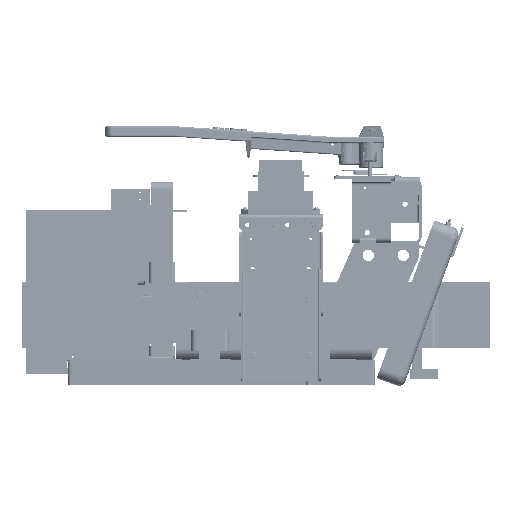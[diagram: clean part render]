
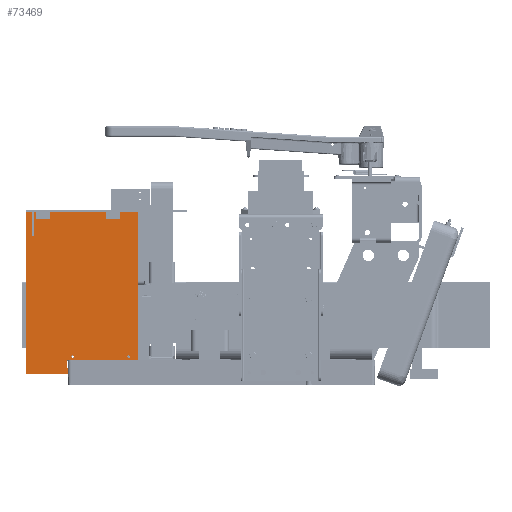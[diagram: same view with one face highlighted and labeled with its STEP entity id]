
A CAD part, left-side view. The second image highlights one B-rep face of the part: STEP entity #73469.
In plain terms, the highlighted planar face has unit normal (-1, 0, 0) as drawn and (0, 0, -1) by its records, which use the part's own axes.
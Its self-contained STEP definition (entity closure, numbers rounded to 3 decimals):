
#3943=FACE_BOUND('',#15733,.T.);
#3944=FACE_BOUND('',#15734,.T.);
#3945=FACE_BOUND('',#15735,.T.);
#3946=FACE_BOUND('',#15736,.T.);
#6109=CIRCLE('',#81004,0.097);
#6111=CIRCLE('',#81007,0.097);
#6113=CIRCLE('',#81010,0.097);
#6115=CIRCLE('',#81013,0.097);
#11074=FACE_OUTER_BOUND('',#15732,.T.);
#15732=EDGE_LOOP('',(#59282,#59283,#59284,#59285,#59286,#59287,#59288,#59289,
#59290,#59291,#59292,#59293));
#15733=EDGE_LOOP('',(#59294));
#15734=EDGE_LOOP('',(#59295));
#15735=EDGE_LOOP('',(#59296));
#15736=EDGE_LOOP('',(#59297));
#21599=LINE('',#123913,#27850);
#21603=LINE('',#123921,#27854);
#21606=LINE('',#123927,#27857);
#21609=LINE('',#123933,#27860);
#21612=LINE('',#123939,#27863);
#21615=LINE('',#123945,#27866);
#21618=LINE('',#123951,#27869);
#21621=LINE('',#123957,#27872);
#21624=LINE('',#123963,#27875);
#21627=LINE('',#123969,#27878);
#21630=LINE('',#123975,#27881);
#21633=LINE('',#123980,#27884);
#27850=VECTOR('',#95857,0.394);
#27854=VECTOR('',#95863,0.394);
#27857=VECTOR('',#95868,0.394);
#27860=VECTOR('',#95873,0.394);
#27863=VECTOR('',#95878,0.394);
#27866=VECTOR('',#95883,0.394);
#27869=VECTOR('',#95888,0.394);
#27872=VECTOR('',#95893,0.394);
#27875=VECTOR('',#95898,0.394);
#27878=VECTOR('',#95903,0.394);
#27881=VECTOR('',#95908,0.394);
#27884=VECTOR('',#95913,0.394);
#34376=VERTEX_POINT('',#123887);
#34378=VERTEX_POINT('',#123893);
#34380=VERTEX_POINT('',#123899);
#34382=VERTEX_POINT('',#123905);
#34384=VERTEX_POINT('',#123911);
#34385=VERTEX_POINT('',#123912);
#34388=VERTEX_POINT('',#123920);
#34390=VERTEX_POINT('',#123926);
#34392=VERTEX_POINT('',#123932);
#34394=VERTEX_POINT('',#123938);
#34396=VERTEX_POINT('',#123944);
#34398=VERTEX_POINT('',#123950);
#34400=VERTEX_POINT('',#123956);
#34402=VERTEX_POINT('',#123962);
#34404=VERTEX_POINT('',#123968);
#34406=VERTEX_POINT('',#123974);
#43086=EDGE_CURVE('',#34376,#34376,#6109,.T.);
#43089=EDGE_CURVE('',#34378,#34378,#6111,.T.);
#43092=EDGE_CURVE('',#34380,#34380,#6113,.T.);
#43095=EDGE_CURVE('',#34382,#34382,#6115,.T.);
#43098=EDGE_CURVE('',#34384,#34385,#21599,.T.);
#43102=EDGE_CURVE('',#34388,#34384,#21603,.T.);
#43105=EDGE_CURVE('',#34390,#34388,#21606,.T.);
#43108=EDGE_CURVE('',#34392,#34390,#21609,.T.);
#43111=EDGE_CURVE('',#34394,#34392,#21612,.T.);
#43114=EDGE_CURVE('',#34396,#34394,#21615,.T.);
#43117=EDGE_CURVE('',#34398,#34396,#21618,.T.);
#43120=EDGE_CURVE('',#34400,#34398,#21621,.T.);
#43123=EDGE_CURVE('',#34402,#34400,#21624,.T.);
#43126=EDGE_CURVE('',#34404,#34402,#21627,.T.);
#43129=EDGE_CURVE('',#34406,#34404,#21630,.T.);
#43132=EDGE_CURVE('',#34385,#34406,#21633,.T.);
#59282=ORIENTED_EDGE('',*,*,#43132,.F.);
#59283=ORIENTED_EDGE('',*,*,#43098,.F.);
#59284=ORIENTED_EDGE('',*,*,#43102,.F.);
#59285=ORIENTED_EDGE('',*,*,#43105,.F.);
#59286=ORIENTED_EDGE('',*,*,#43108,.F.);
#59287=ORIENTED_EDGE('',*,*,#43111,.F.);
#59288=ORIENTED_EDGE('',*,*,#43114,.F.);
#59289=ORIENTED_EDGE('',*,*,#43117,.F.);
#59290=ORIENTED_EDGE('',*,*,#43120,.F.);
#59291=ORIENTED_EDGE('',*,*,#43123,.F.);
#59292=ORIENTED_EDGE('',*,*,#43126,.F.);
#59293=ORIENTED_EDGE('',*,*,#43129,.F.);
#59294=ORIENTED_EDGE('',*,*,#43086,.T.);
#59295=ORIENTED_EDGE('',*,*,#43089,.T.);
#59296=ORIENTED_EDGE('',*,*,#43092,.T.);
#59297=ORIENTED_EDGE('',*,*,#43095,.T.);
#70247=PLANE('',#81028);
#73469=ADVANCED_FACE('',(#11074,#3943,#3944,#3945,#3946),#70247,.F.);
#81004=AXIS2_PLACEMENT_3D('',#123888,#95829,#95830);
#81007=AXIS2_PLACEMENT_3D('',#123894,#95836,#95837);
#81010=AXIS2_PLACEMENT_3D('',#123900,#95843,#95844);
#81013=AXIS2_PLACEMENT_3D('',#123906,#95850,#95851);
#81028=AXIS2_PLACEMENT_3D('',#123983,#95917,#95918);
#95829=DIRECTION('center_axis',(0.,0.,1.));
#95830=DIRECTION('ref_axis',(-1.,0.,0.));
#95836=DIRECTION('center_axis',(0.,0.,1.));
#95837=DIRECTION('ref_axis',(-1.,0.,0.));
#95843=DIRECTION('center_axis',(0.,0.,1.));
#95844=DIRECTION('ref_axis',(-1.,0.,0.));
#95850=DIRECTION('center_axis',(0.,0.,1.));
#95851=DIRECTION('ref_axis',(-1.,0.,0.));
#95857=DIRECTION('',(1.,0.,0.));
#95863=DIRECTION('',(0.,1.,0.));
#95868=DIRECTION('',(1.,0.,0.));
#95873=DIRECTION('',(0.,-1.,0.));
#95878=DIRECTION('',(-1.,0.,0.));
#95883=DIRECTION('',(0.,-1.,0.));
#95888=DIRECTION('',(1.,0.,0.));
#95893=DIRECTION('',(0.,-1.,0.));
#95898=DIRECTION('',(-1.,0.,0.));
#95903=DIRECTION('',(0.,1.,0.));
#95908=DIRECTION('',(1.,0.,0.));
#95913=DIRECTION('',(0.,-1.,0.));
#95917=DIRECTION('center_axis',(0.,0.,1.));
#95918=DIRECTION('ref_axis',(1.,0.,0.));
#123887=CARTESIAN_POINT('',(0.347,2.,0.));
#123888=CARTESIAN_POINT('Origin',(0.25,2.,0.));
#123893=CARTESIAN_POINT('',(0.347,7.,0.));
#123894=CARTESIAN_POINT('Origin',(0.25,7.,0.));
#123899=CARTESIAN_POINT('',(10.472,0.688,0.));
#123900=CARTESIAN_POINT('Origin',(10.375,0.688,0.));
#123905=CARTESIAN_POINT('',(10.472,4.688,0.));
#123906=CARTESIAN_POINT('Origin',(10.375,4.688,0.));
#123911=CARTESIAN_POINT('',(10.625,5.094,0.));
#123912=CARTESIAN_POINT('',(11.156,5.094,0.));
#123913=CARTESIAN_POINT('',(10.625,5.094,0.));
#123920=CARTESIAN_POINT('',(10.625,0.,0.));
#123921=CARTESIAN_POINT('',(10.625,0.,0.));
#123926=CARTESIAN_POINT('',(0.,0.,0.));
#123927=CARTESIAN_POINT('',(0.,0.,0.));
#123932=CARTESIAN_POINT('',(0.,7.422,0.));
#123933=CARTESIAN_POINT('',(0.,7.422,0.));
#123938=CARTESIAN_POINT('',(1.75,7.422,0.));
#123939=CARTESIAN_POINT('',(1.75,7.422,0.));
#123944=CARTESIAN_POINT('',(1.75,7.578,0.));
#123945=CARTESIAN_POINT('',(1.75,7.578,0.));
#123950=CARTESIAN_POINT('',(0.,7.578,0.));
#123951=CARTESIAN_POINT('',(0.,7.578,0.));
#123956=CARTESIAN_POINT('',(0.,8.,0.));
#123957=CARTESIAN_POINT('',(0.,8.,0.));
#123962=CARTESIAN_POINT('',(11.625,8.,0.));
#123963=CARTESIAN_POINT('',(11.625,8.,0.));
#123968=CARTESIAN_POINT('',(11.625,4.719,0.));
#123969=CARTESIAN_POINT('',(11.625,4.719,0.));
#123974=CARTESIAN_POINT('',(11.156,4.719,0.));
#123975=CARTESIAN_POINT('',(11.156,4.719,0.));
#123980=CARTESIAN_POINT('',(11.156,5.094,0.));
#123983=CARTESIAN_POINT('Origin',(5.401,4.41,0.));
